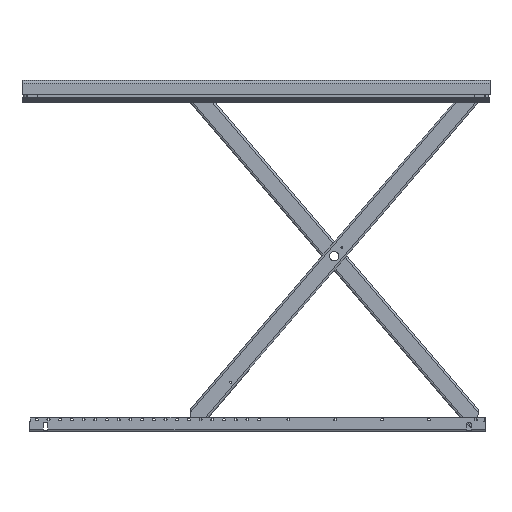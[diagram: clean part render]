
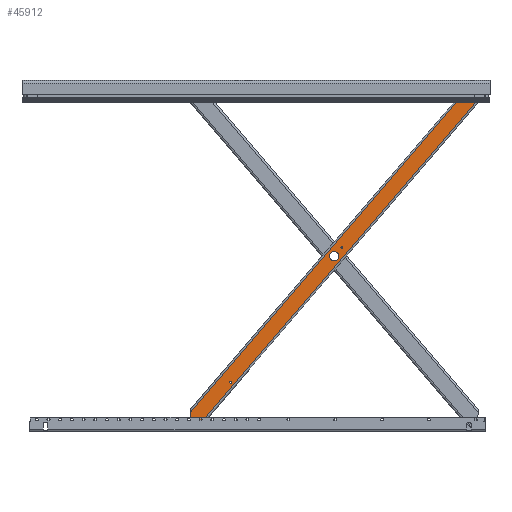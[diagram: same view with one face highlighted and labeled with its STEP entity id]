
A CAD part, left-side view. The second image highlights one B-rep face of the part: STEP entity #45912.
In plain terms, the highlighted planar face has unit normal (-1, 0, 0).
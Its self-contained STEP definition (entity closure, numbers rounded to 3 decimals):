
#1668=FACE_BOUND('',#6683,.T.);
#1669=FACE_BOUND('',#6684,.T.);
#1670=FACE_BOUND('',#6685,.T.);
#1671=FACE_BOUND('',#6686,.T.);
#1672=FACE_BOUND('',#6687,.T.);
#2269=PLANE('',#49593);
#3999=FACE_OUTER_BOUND('',#6682,.T.);
#6682=EDGE_LOOP('',(#34971,#34972,#34973,#34974,#34975,#34976));
#6683=EDGE_LOOP('',(#34977));
#6684=EDGE_LOOP('',(#34978));
#6685=EDGE_LOOP('',(#34979));
#6686=EDGE_LOOP('',(#34980));
#6687=EDGE_LOOP('',(#34981));
#9440=CIRCLE('',#49545,3.7);
#9444=CIRCLE('',#49551,3.7);
#9448=CIRCLE('',#49557,20.);
#9449=CIRCLE('',#49559,7.1);
#9458=CIRCLE('',#49594,7.1);
#11756=LINE('',#69550,#16201);
#11771=LINE('',#69591,#16216);
#11779=LINE('',#69621,#16224);
#11781=LINE('',#69625,#16226);
#11786=LINE('',#69638,#16231);
#11787=LINE('',#69639,#16232);
#16201=VECTOR('',#56542,10.);
#16216=VECTOR('',#56577,10.);
#16224=VECTOR('',#56605,10.);
#16226=VECTOR('',#56611,10.);
#16231=VECTOR('',#56624,10.);
#16232=VECTOR('',#56625,10.);
#20735=VERTEX_POINT('',#69497);
#20739=VERTEX_POINT('',#69507);
#20743=VERTEX_POINT('',#69517);
#20744=VERTEX_POINT('',#69520);
#20757=VERTEX_POINT('',#69547);
#20758=VERTEX_POINT('',#69549);
#20774=VERTEX_POINT('',#69590);
#20785=VERTEX_POINT('',#69618);
#20786=VERTEX_POINT('',#69620);
#20790=VERTEX_POINT('',#69637);
#20791=VERTEX_POINT('',#69640);
#25997=EDGE_CURVE('',#20735,#20735,#9440,.T.);
#26001=EDGE_CURVE('',#20739,#20739,#9444,.T.);
#26005=EDGE_CURVE('',#20743,#20743,#9448,.T.);
#26006=EDGE_CURVE('',#20744,#20744,#9449,.T.);
#26019=EDGE_CURVE('',#20758,#20757,#11756,.T.);
#26039=EDGE_CURVE('',#20774,#20758,#11771,.T.);
#26054=EDGE_CURVE('',#20785,#20786,#11779,.T.);
#26057=EDGE_CURVE('',#20757,#20786,#11781,.T.);
#26063=EDGE_CURVE('',#20785,#20790,#11786,.T.);
#26064=EDGE_CURVE('',#20790,#20774,#11787,.T.);
#26065=EDGE_CURVE('',#20791,#20791,#9458,.T.);
#34971=ORIENTED_EDGE('',*,*,#26019,.T.);
#34972=ORIENTED_EDGE('',*,*,#26057,.T.);
#34973=ORIENTED_EDGE('',*,*,#26054,.F.);
#34974=ORIENTED_EDGE('',*,*,#26063,.T.);
#34975=ORIENTED_EDGE('',*,*,#26064,.T.);
#34976=ORIENTED_EDGE('',*,*,#26039,.T.);
#34977=ORIENTED_EDGE('',*,*,#25997,.T.);
#34978=ORIENTED_EDGE('',*,*,#26001,.T.);
#34979=ORIENTED_EDGE('',*,*,#26005,.T.);
#34980=ORIENTED_EDGE('',*,*,#26065,.T.);
#34981=ORIENTED_EDGE('',*,*,#26006,.T.);
#45912=ADVANCED_FACE('',(#3999,#1668,#1669,#1670,#1671,#1672),#2269,.T.);
#49545=AXIS2_PLACEMENT_3D('',#69498,#56490,#56491);
#49551=AXIS2_PLACEMENT_3D('',#69508,#56502,#56503);
#49557=AXIS2_PLACEMENT_3D('',#69518,#56514,#56515);
#49559=AXIS2_PLACEMENT_3D('',#69521,#56518,#56519);
#49593=AXIS2_PLACEMENT_3D('',#69636,#56622,#56623);
#49594=AXIS2_PLACEMENT_3D('',#69641,#56626,#56627);
#56490=DIRECTION('center_axis',(1.,0.,0.));
#56491=DIRECTION('ref_axis',(0.,0.,-1.));
#56502=DIRECTION('center_axis',(1.,0.,0.));
#56503=DIRECTION('ref_axis',(0.,0.,-1.));
#56514=DIRECTION('center_axis',(1.,0.,0.));
#56515=DIRECTION('ref_axis',(0.,0.,-1.));
#56518=DIRECTION('center_axis',(1.,0.,0.));
#56519=DIRECTION('ref_axis',(0.,0.,1.));
#56542=DIRECTION('',(0.,-0.707,-0.707));
#56577=DIRECTION('',(0.,0.,-1.));
#56605=DIRECTION('',(0.,0.,-1.));
#56611=DIRECTION('',(0.,-1.,0.));
#56622=DIRECTION('center_axis',(-1.,0.,0.));
#56623=DIRECTION('ref_axis',(0.,0.,1.));
#56624=DIRECTION('',(0.,0.707,0.707));
#56625=DIRECTION('',(0.,1.,0.));
#56626=DIRECTION('center_axis',(1.,0.,0.));
#56627=DIRECTION('ref_axis',(0.,0.,-1.));
#69497=CARTESIAN_POINT('',(-30.,-15.,-694.3));
#69498=CARTESIAN_POINT('Origin',(-30.,-15.,-698.));
#69507=CARTESIAN_POINT('',(-30.,0.,53.7));
#69508=CARTESIAN_POINT('Origin',(-30.,0.,50.));
#69517=CARTESIAN_POINT('',(-30.,0.,20.));
#69518=CARTESIAN_POINT('Origin',(-30.,0.,0.));
#69520=CARTESIAN_POINT('',(-30.,-15.,-932.1));
#69521=CARTESIAN_POINT('Origin',(-30.,-15.,-925.));
#69547=CARTESIAN_POINT('',(-30.,0.,-940.));
#69549=CARTESIAN_POINT('',(-30.,32.,-908.));
#69550=CARTESIAN_POINT('',(-30.,247.,-693.));
#69590=CARTESIAN_POINT('',(-30.,32.,940.));
#69591=CARTESIAN_POINT('',(-30.,32.,0.));
#69618=CARTESIAN_POINT('',(-30.,-32.,908.));
#69620=CARTESIAN_POINT('',(-30.,-32.,-940.));
#69621=CARTESIAN_POINT('',(-30.,-32.,0.));
#69625=CARTESIAN_POINT('',(-30.,-32.,-940.));
#69636=CARTESIAN_POINT('Origin',(-30.,-32.,0.));
#69637=CARTESIAN_POINT('',(-30.,0.,940.));
#69638=CARTESIAN_POINT('',(-30.,-263.,677.));
#69639=CARTESIAN_POINT('',(-30.,-32.,940.));
#69640=CARTESIAN_POINT('',(-30.,15.,932.1));
#69641=CARTESIAN_POINT('Origin',(-30.,15.,925.));
